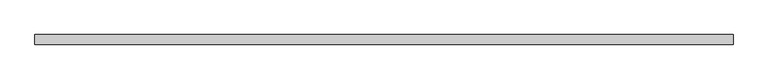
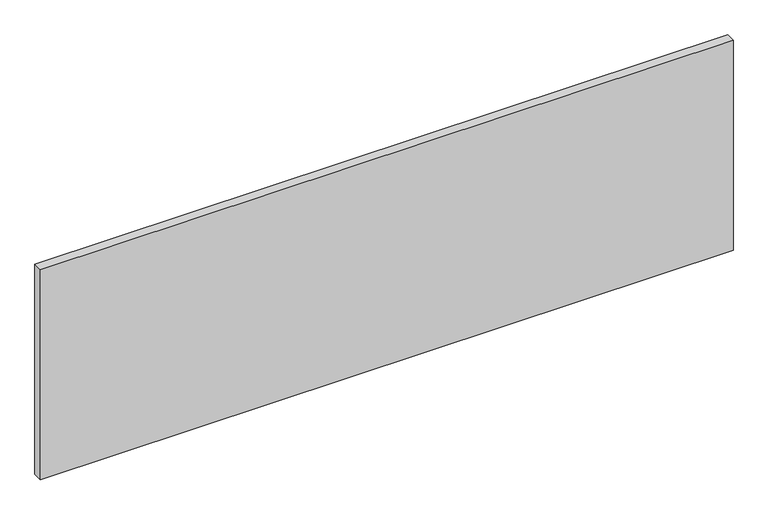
"""IFC4 building model written with IfcOpenShell, lengths in millimetres: plate geometry, Lod 200 Ritmica 930 Horizontal : Azuro."""

from ifc_helpers import new_model, si_unit, origin, origin_with_axes, place, context, project, spatial, polyline, outline, extrude, source, transform, mapped, element, save


def plate_deeb19b2(model_context):
    return source(origin(), model_context, "Body", "SweptSolid", [
        extrude(outline(polyline([(1450.1966549, -40.0), (-1450.1966549, -40.0), (-1450.1966549, 0.0), (1450.1966549, 0.0), (1450.1966549, -40.0)])), origin_with_axes(), (0.0, 0.0, 1.0), 930.0),
    ])


if __name__ == "__main__":
    model = new_model("IFC4")
    model_context = context("Model", 3, world=origin())
    ifc_project = project(units=[si_unit("LENGTHUNIT", "METRE", prefix="MILLI")], contexts=[model_context])
    site = spatial("IfcSite", under=ifc_project)
    building = spatial("IfcBuilding", under=site)
    placement = place(None, origin())
    plate_shape = plate_deeb19b2(model_context)
    element("IfcPlate", 1, ObjectType="Lod 200 Ritmica 930 Horizontal : Azuro", at=placement, inside=building, context=model_context, shape_type="MappedRepresentation", body=[
        mapped(plate_shape, transform((0.0, 0.0, 0.0), x_axis=(1.0, 0.0, 0.0), y_axis=(0.0, 1.0, 0.0), z_axis=(0.0, 0.0, 1.0))),
    ])
    save(model, "model.ifc")
